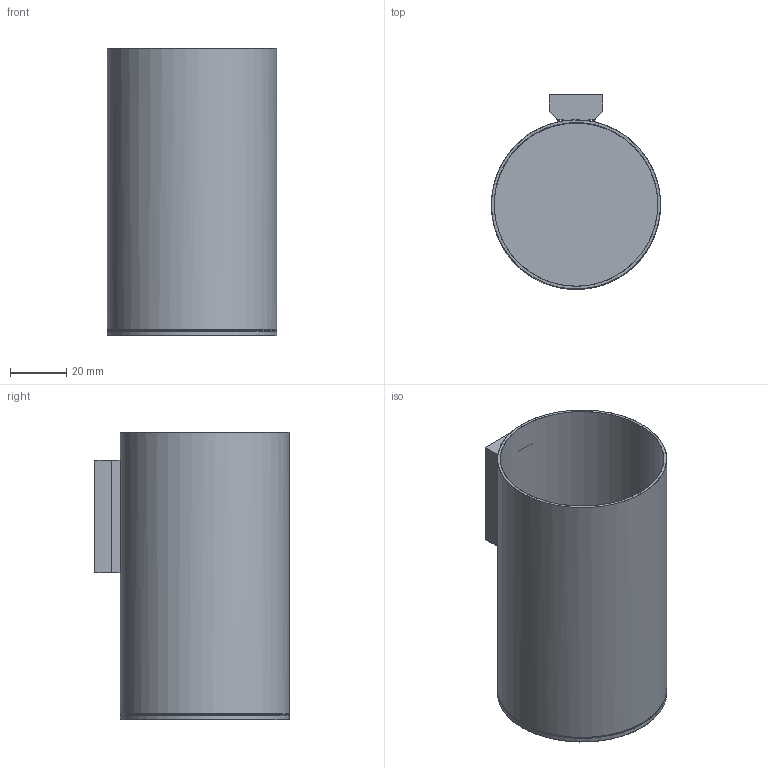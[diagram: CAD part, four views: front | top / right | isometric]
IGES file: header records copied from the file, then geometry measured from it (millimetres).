
Global section: file name: /Users/f/Desktop/II/AE141.igs; native system: Rhinoceros ( Sep  7 2010 ); preprocessor: Trout Lake IGES 012 Sep  7 2010; date: 100922.134044; units: millimetre
Bounding box: 60 x 69 x 101.8 mm (x, y, z)
Surface area: 49448.9 mm2 (no closed solid volume)
Topology: 0 solids, 0 shells, 22 faces, 268 edges, 263 vertices
Faces by surface type: bspline 22
